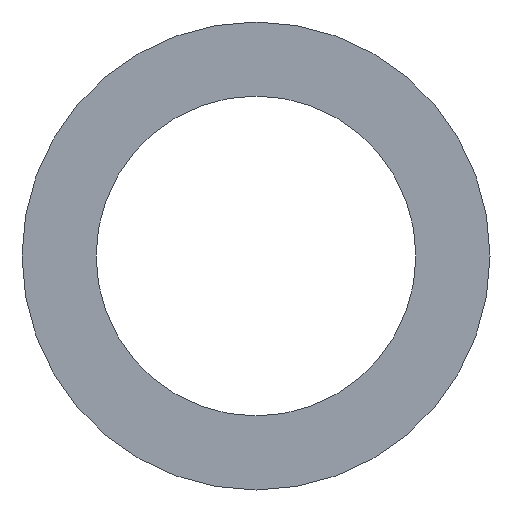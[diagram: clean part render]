
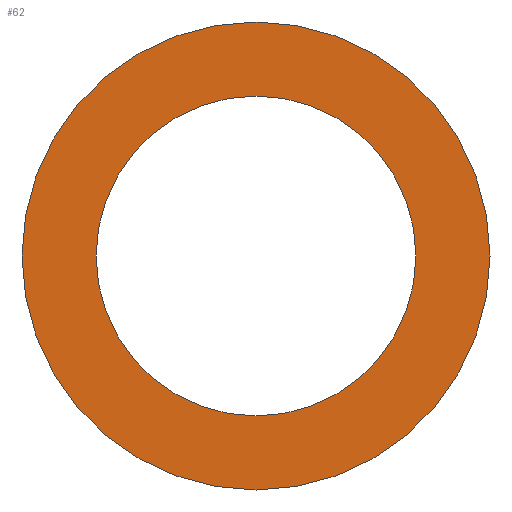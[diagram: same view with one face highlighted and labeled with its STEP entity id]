
A CAD part, front view. The second image highlights one B-rep face of the part: STEP entity #62.
In plain terms, the highlighted planar face has unit normal (0, -1, 0).
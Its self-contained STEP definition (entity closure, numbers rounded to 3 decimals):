
#20=PLANE('',#83);
#26=ORIENTED_EDGE('',*,*,#30,.T.);
#27=ORIENTED_EDGE('',*,*,#32,.F.);
#30=EDGE_CURVE('',#34,#34,#38,.T.);
#32=EDGE_CURVE('',#36,#36,#40,.T.);
#34=VERTEX_POINT('',#106);
#36=VERTEX_POINT('',#111);
#38=CIRCLE('',#78,74.5);
#40=CIRCLE('',#81,109.);
#46=EDGE_LOOP('',(#26));
#47=EDGE_LOOP('',(#27));
#54=FACE_BOUND('',#46,.T.);
#55=FACE_BOUND('',#47,.T.);
#62=ADVANCED_FACE('',(#54,#55),#20,.F.);
#78=AXIS2_PLACEMENT_3D('',#105,#89,#90);
#81=AXIS2_PLACEMENT_3D('',#110,#95,#96);
#83=AXIS2_PLACEMENT_3D('',#114,#99,#100);
#89=DIRECTION('',(0.,1.,0.));
#90=DIRECTION('',(1.,0.,0.));
#95=DIRECTION('',(0.,1.,0.));
#96=DIRECTION('',(1.,0.,0.));
#99=DIRECTION('',(0.,1.,0.));
#100=DIRECTION('',(0.,0.,1.));
#105=CARTESIAN_POINT('',(0.,-1.5,0.));
#106=CARTESIAN_POINT('',(74.5,-1.5,0.));
#110=CARTESIAN_POINT('',(0.,-1.5,0.));
#111=CARTESIAN_POINT('',(109.,-1.5,0.));
#114=CARTESIAN_POINT('',(0.,-1.5,0.));
